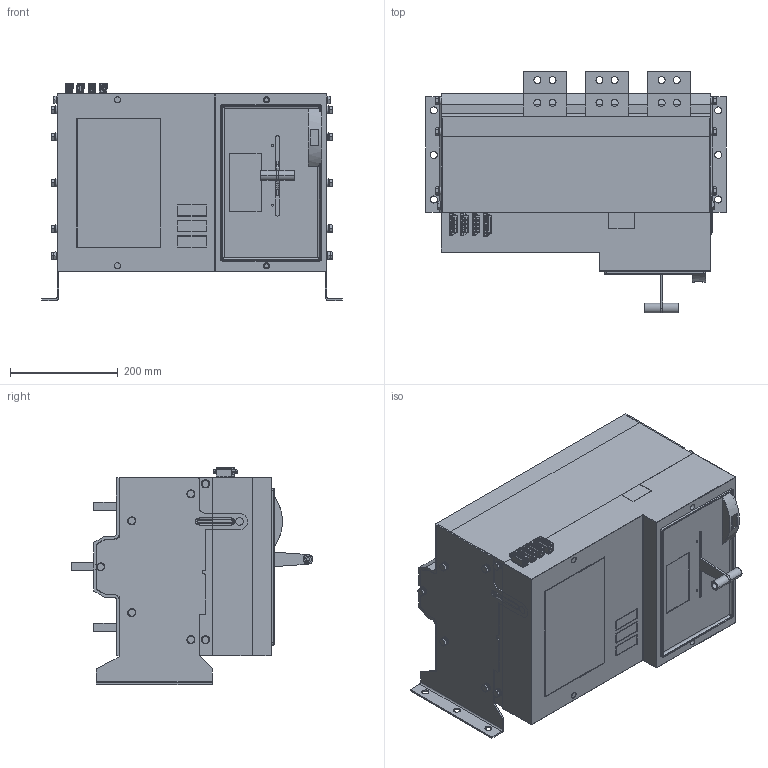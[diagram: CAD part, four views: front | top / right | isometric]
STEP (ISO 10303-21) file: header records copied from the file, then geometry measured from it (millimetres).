
FILE_DESCRIPTION (( 'STEP AP214' ), '1' );
FILE_NAME ('XKQE3150-2000A-3P.STEP', '2023-04-21T02:14:23', ( '' ), ( '' ), 'SwSTEP 2.0', 'SolidWorks 2020', '' );
FILE_SCHEMA (( 'AUTOMOTIVE_DESIGN' ));
Length unit declared in the file: millimetre
Products named in the file (11): XKQE3150-2000A-3P; 5XKQE-024-102_3_2.STEP.STEP.STEP; 5XKQE.551.127.2-4.STEP.STEP.STEP; 1_2_1.STEP.STEP.STEP; 8XKQE-253-101_1_1.STEP.STEP.STEP; ________.STEP; 8XKQE-003-100___.STEP.STEP.STEP; M8-25________.STEP.STEP; 8XKQE-050-124_3_1.STEP.STEP.STEP; 8XKQE-253-102_1_1.STEP.STEP.STEP; 5XKQE.050.101.STEP.STEP.STEP
Assembly tree (26 placements, depth 2):
  XKQE3150-2000A-3P
    8XKQE-050-124_3_1.STEP.STEP.STEP
    1_2_1.STEP.STEP.STEP
    5XKQE.050.101.STEP.STEP.STEP
    8XKQE-253-102_1_1.STEP.STEP.STEP  x2
    8XKQE-003-100___.STEP.STEP.STEP
    8XKQE-253-101_1_1.STEP.STEP.STEP
    5XKQE-024-102_3_2.STEP.STEP.STEP
    5XKQE.551.127.2-4.STEP.STEP.STEP  x3
    M8-25________.STEP.STEP  x14
    ________.STEP
Bounding box: 557 x 448 x 402 mm (x, y, z)
Volume: 45059146.6 mm3; surface area: 2180943.9 mm2
Topology: 90 solids, 195 shells, 6169 faces, 16015 edges, 10478 vertices
Faces by surface type: plane 3896, cylinder 1469, cone 481, bspline 249, torus 66, sphere 8
Entity records: 187254 total; most frequent: CARTESIAN_POINT 50393, ORIENTED_EDGE 29530, DIRECTION 26123, EDGE_CURVE 14765, LINE 10037, VECTOR 10037, VERTEX_POINT 9682, AXIS2_PLACEMENT_3D 8043
